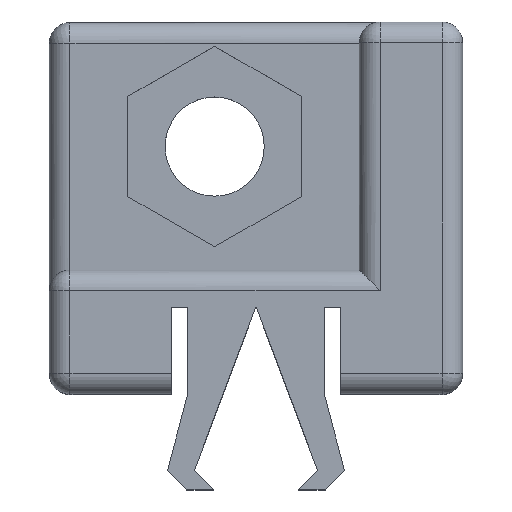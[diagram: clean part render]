
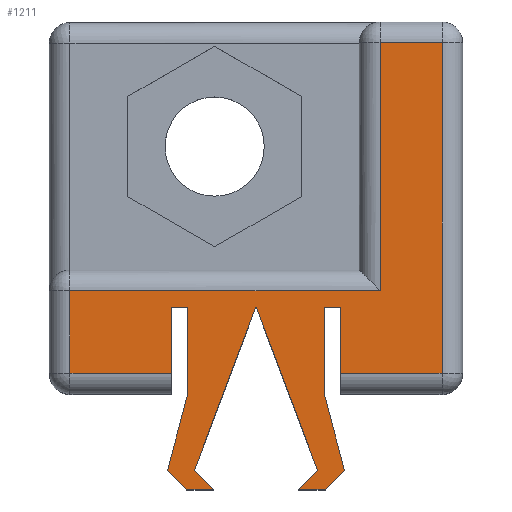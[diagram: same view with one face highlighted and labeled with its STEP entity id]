
A CAD part, top view. The second image highlights one B-rep face of the part: STEP entity #1211.
In plain terms, the highlighted planar face has unit normal (0, 0, 1).
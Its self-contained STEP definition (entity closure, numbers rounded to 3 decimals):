
#22=PLANE('',#1323);
#70=LINE('',#1797,#203);
#75=LINE('',#1825,#208);
#78=LINE('',#1831,#211);
#79=LINE('',#1834,#212);
#83=LINE('',#1843,#216);
#95=LINE('',#1864,#228);
#100=LINE('',#1874,#233);
#113=LINE('',#1902,#246);
#114=LINE('',#1904,#247);
#115=LINE('',#1906,#248);
#116=LINE('',#1908,#249);
#117=LINE('',#1910,#250);
#118=LINE('',#1912,#251);
#119=LINE('',#1914,#252);
#120=LINE('',#1916,#253);
#121=LINE('',#1918,#254);
#122=LINE('',#1920,#255);
#123=LINE('',#1922,#256);
#124=LINE('',#1924,#257);
#125=LINE('',#1926,#258);
#126=LINE('',#1928,#259);
#127=LINE('',#1930,#260);
#128=LINE('',#1932,#261);
#129=LINE('',#1933,#262);
#203=VECTOR('',#1446,10.);
#208=VECTOR('',#1477,10.);
#211=VECTOR('',#1482,10.);
#212=VECTOR('',#1487,10.);
#216=VECTOR('',#1497,10.);
#228=VECTOR('',#1523,10.);
#233=VECTOR('',#1534,10.);
#246=VECTOR('',#1557,10.);
#247=VECTOR('',#1558,10.);
#248=VECTOR('',#1559,10.);
#249=VECTOR('',#1560,10.);
#250=VECTOR('',#1561,10.);
#251=VECTOR('',#1562,10.);
#252=VECTOR('',#1563,10.);
#253=VECTOR('',#1564,10.);
#254=VECTOR('',#1565,10.);
#255=VECTOR('',#1566,10.);
#256=VECTOR('',#1567,10.);
#257=VECTOR('',#1568,10.);
#258=VECTOR('',#1569,10.);
#259=VECTOR('',#1570,10.);
#260=VECTOR('',#1571,10.);
#261=VECTOR('',#1572,10.);
#262=VECTOR('',#1573,10.);
#384=FACE_OUTER_BOUND('',#458,.T.);
#458=EDGE_LOOP('',(#942,#943,#944,#945,#946,#947,#948,#949,#950,#951,#952,
#953,#954,#955,#956,#957,#958,#959,#960,#961,#962,#963,#964,#965));
#550=VERTEX_POINT('',#1749);
#557=VERTEX_POINT('',#1771);
#564=VERTEX_POINT('',#1789);
#569=VERTEX_POINT('',#1805);
#573=VERTEX_POINT('',#1813);
#578=VERTEX_POINT('',#1830);
#580=VERTEX_POINT('',#1841);
#583=VERTEX_POINT('',#1870);
#594=VERTEX_POINT('',#1901);
#595=VERTEX_POINT('',#1903);
#596=VERTEX_POINT('',#1905);
#597=VERTEX_POINT('',#1907);
#598=VERTEX_POINT('',#1909);
#599=VERTEX_POINT('',#1911);
#600=VERTEX_POINT('',#1913);
#601=VERTEX_POINT('',#1915);
#602=VERTEX_POINT('',#1917);
#603=VERTEX_POINT('',#1919);
#604=VERTEX_POINT('',#1921);
#605=VERTEX_POINT('',#1923);
#606=VERTEX_POINT('',#1925);
#607=VERTEX_POINT('',#1927);
#608=VERTEX_POINT('',#1929);
#609=VERTEX_POINT('',#1931);
#677=EDGE_CURVE('',#564,#557,#70,.T.);
#690=EDGE_CURVE('',#569,#573,#75,.T.);
#693=EDGE_CURVE('',#573,#578,#78,.T.);
#695=EDGE_CURVE('',#578,#564,#79,.T.);
#700=EDGE_CURVE('',#580,#569,#83,.T.);
#713=EDGE_CURVE('',#557,#550,#95,.T.);
#719=EDGE_CURVE('',#550,#583,#100,.T.);
#733=EDGE_CURVE('',#580,#594,#113,.T.);
#734=EDGE_CURVE('',#594,#595,#114,.T.);
#735=EDGE_CURVE('',#595,#596,#115,.T.);
#736=EDGE_CURVE('',#596,#597,#116,.T.);
#737=EDGE_CURVE('',#597,#598,#117,.T.);
#738=EDGE_CURVE('',#598,#599,#118,.T.);
#739=EDGE_CURVE('',#599,#600,#119,.T.);
#740=EDGE_CURVE('',#600,#601,#120,.T.);
#741=EDGE_CURVE('',#601,#602,#121,.T.);
#742=EDGE_CURVE('',#602,#603,#122,.T.);
#743=EDGE_CURVE('',#603,#604,#123,.T.);
#744=EDGE_CURVE('',#604,#605,#124,.T.);
#745=EDGE_CURVE('',#605,#606,#125,.T.);
#746=EDGE_CURVE('',#606,#607,#126,.T.);
#747=EDGE_CURVE('',#607,#608,#127,.T.);
#748=EDGE_CURVE('',#608,#609,#128,.T.);
#749=EDGE_CURVE('',#609,#583,#129,.T.);
#942=ORIENTED_EDGE('',*,*,#719,.F.);
#943=ORIENTED_EDGE('',*,*,#713,.F.);
#944=ORIENTED_EDGE('',*,*,#677,.F.);
#945=ORIENTED_EDGE('',*,*,#695,.F.);
#946=ORIENTED_EDGE('',*,*,#693,.F.);
#947=ORIENTED_EDGE('',*,*,#690,.F.);
#948=ORIENTED_EDGE('',*,*,#700,.F.);
#949=ORIENTED_EDGE('',*,*,#733,.T.);
#950=ORIENTED_EDGE('',*,*,#734,.T.);
#951=ORIENTED_EDGE('',*,*,#735,.T.);
#952=ORIENTED_EDGE('',*,*,#736,.T.);
#953=ORIENTED_EDGE('',*,*,#737,.T.);
#954=ORIENTED_EDGE('',*,*,#738,.T.);
#955=ORIENTED_EDGE('',*,*,#739,.T.);
#956=ORIENTED_EDGE('',*,*,#740,.T.);
#957=ORIENTED_EDGE('',*,*,#741,.T.);
#958=ORIENTED_EDGE('',*,*,#742,.T.);
#959=ORIENTED_EDGE('',*,*,#743,.T.);
#960=ORIENTED_EDGE('',*,*,#744,.T.);
#961=ORIENTED_EDGE('',*,*,#745,.T.);
#962=ORIENTED_EDGE('',*,*,#746,.T.);
#963=ORIENTED_EDGE('',*,*,#747,.T.);
#964=ORIENTED_EDGE('',*,*,#748,.T.);
#965=ORIENTED_EDGE('',*,*,#749,.T.);
#1211=ADVANCED_FACE('',(#384),#22,.T.);
#1323=AXIS2_PLACEMENT_3D('',#1900,#1555,#1556);
#1446=DIRECTION('',(1.,0.,0.));
#1477=DIRECTION('',(0.,1.,0.));
#1482=DIRECTION('',(1.,0.,0.));
#1487=DIRECTION('',(0.,1.,0.));
#1497=DIRECTION('',(-1.,0.,0.));
#1523=DIRECTION('',(0.,-1.,0.));
#1534=DIRECTION('',(-1.,0.,0.));
#1555=DIRECTION('center_axis',(0.,0.,1.));
#1556=DIRECTION('ref_axis',(1.,0.,0.));
#1557=DIRECTION('',(0.,1.,0.));
#1558=DIRECTION('',(1.,0.,0.));
#1559=DIRECTION('',(0.,-1.,0.));
#1560=DIRECTION('',(-0.259,-0.966,0.));
#1561=DIRECTION('',(0.707,-0.707,0.));
#1562=DIRECTION('',(1.,0.,0.));
#1563=DIRECTION('',(-0.707,0.707,0.));
#1564=DIRECTION('',(0.351,0.936,0.));
#1565=DIRECTION('',(1.,0.,0.));
#1566=DIRECTION('',(0.351,-0.936,0.));
#1567=DIRECTION('',(-0.707,-0.707,0.));
#1568=DIRECTION('',(1.,0.,0.));
#1569=DIRECTION('',(0.707,0.707,0.));
#1570=DIRECTION('',(-0.259,0.966,0.));
#1571=DIRECTION('',(0.,1.,0.));
#1572=DIRECTION('',(1.,0.,0.));
#1573=DIRECTION('',(0.,-1.,0.));
#1749=CARTESIAN_POINT('',(4.5,0.5,10.));
#1771=CARTESIAN_POINT('',(4.5,8.5,10.));
#1789=CARTESIAN_POINT('',(3.,8.5,10.));
#1797=CARTESIAN_POINT('',(0.,8.5,10.));
#1805=CARTESIAN_POINT('',(-4.5,0.5,10.));
#1813=CARTESIAN_POINT('',(-4.5,2.5,10.));
#1825=CARTESIAN_POINT('',(-4.5,0.924,10.));
#1830=CARTESIAN_POINT('',(3.,2.5,10.));
#1831=CARTESIAN_POINT('',(1.125,2.5,10.));
#1834=CARTESIAN_POINT('',(3.,3.174,10.));
#1841=CARTESIAN_POINT('',(-2.05,0.5,10.));
#1843=CARTESIAN_POINT('',(-1.125,0.5,10.));
#1864=CARTESIAN_POINT('',(4.5,0.924,10.));
#1870=CARTESIAN_POINT('',(2.05,0.5,10.));
#1874=CARTESIAN_POINT('',(1.025,0.5,10.));
#1900=CARTESIAN_POINT('Origin',(0.,0.347,
10.));
#1901=CARTESIAN_POINT('',(-2.05,2.1,10.));
#1902=CARTESIAN_POINT('',(-2.05,2.1,10.));
#1903=CARTESIAN_POINT('',(-1.648,2.1,10.));
#1904=CARTESIAN_POINT('',(-1.648,2.1,10.));
#1905=CARTESIAN_POINT('',(-1.648,0.,10.));
#1906=CARTESIAN_POINT('',(-1.648,0.,10.));
#1907=CARTESIAN_POINT('',(-2.141,-1.84,10.));
#1908=CARTESIAN_POINT('',(-2.141,-1.84,10.));
#1909=CARTESIAN_POINT('',(-1.675,-2.306,10.));
#1910=CARTESIAN_POINT('',(-1.675,-2.306,10.));
#1911=CARTESIAN_POINT('',(-1.025,-2.306,10.));
#1912=CARTESIAN_POINT('',(-1.025,-2.306,10.));
#1913=CARTESIAN_POINT('',(-1.488,-1.842,10.));
#1914=CARTESIAN_POINT('',(-1.488,-1.842,10.));
#1915=CARTESIAN_POINT('',(-0.01,2.1,10.));
#1916=CARTESIAN_POINT('',(-0.01,2.1,10.));
#1917=CARTESIAN_POINT('',(0.01,2.1,10.));
#1918=CARTESIAN_POINT('',(0.,2.1,10.));
#1919=CARTESIAN_POINT('',(1.488,-1.842,10.));
#1920=CARTESIAN_POINT('',(0.01,2.1,10.));
#1921=CARTESIAN_POINT('',(1.025,-2.306,10.));
#1922=CARTESIAN_POINT('',(1.025,-2.306,10.));
#1923=CARTESIAN_POINT('',(1.675,-2.306,10.));
#1924=CARTESIAN_POINT('',(1.675,-2.306,10.));
#1925=CARTESIAN_POINT('',(2.141,-1.84,10.));
#1926=CARTESIAN_POINT('',(2.141,-1.84,10.));
#1927=CARTESIAN_POINT('',(1.648,0.,10.));
#1928=CARTESIAN_POINT('',(1.648,0.,10.));
#1929=CARTESIAN_POINT('',(1.648,2.1,10.));
#1930=CARTESIAN_POINT('',(1.648,2.1,10.));
#1931=CARTESIAN_POINT('',(2.05,2.1,10.));
#1932=CARTESIAN_POINT('',(1.648,2.1,10.));
#1933=CARTESIAN_POINT('',(2.05,0.,10.));
